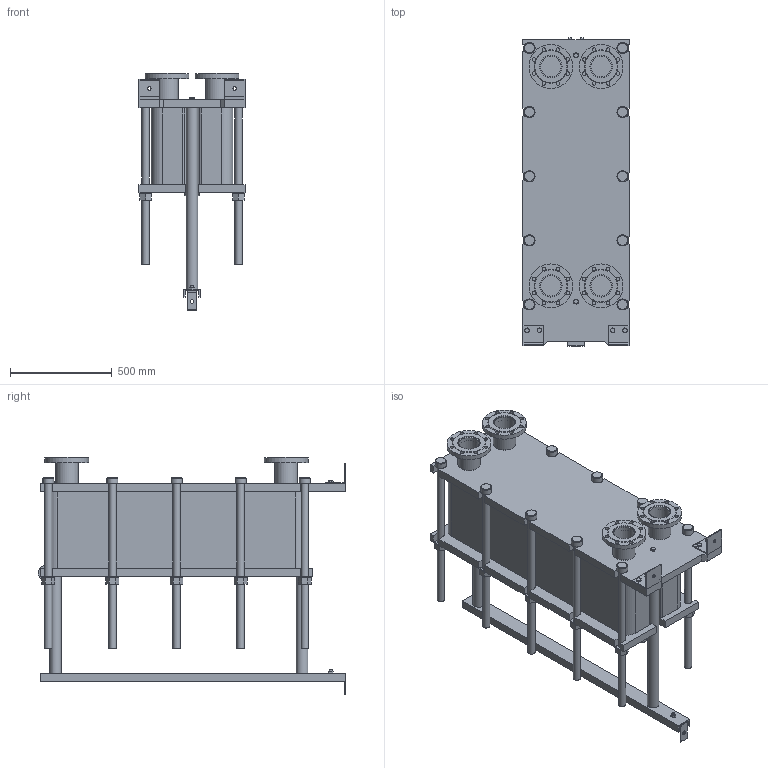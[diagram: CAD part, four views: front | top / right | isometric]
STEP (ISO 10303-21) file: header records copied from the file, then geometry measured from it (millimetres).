
FILE_DESCRIPTION(/* description */ (''),/* implementation_level */ '2;1');
FILE_NAME(/* name */ 'C:\Users\zhuro\Desktop\ENCO\TO\ЭН-04\ЭН-0,5-04-109-1.stp',/* time_stamp */ '2022-06-06T10:54:57+03:00',/* author */ ('zhuro'),/* organization */ (''),/* preprocessor_version */ 'ST-DEVELOPER v18.1',/* originating_system */ 'Autodesk Inventor 2022',/* authorisation */ '');
FILE_SCHEMA (('AUTOMOTIVE_DESIGN { 1 0 10303 214 3 1 1 }'));
Length unit declared in the file: millimetre
Products named in the file (1): ЭН-0,5-04-109-1
Bounding box: 520 x 1510 x 1164.5 mm (x, y, z)
Volume: 259623602.6 mm3; surface area: 8553172.8 mm2
Topology: 45 solids, 45 shells, 668 faces, 1611 edges, 1048 vertices
Faces by surface type: plane 457, cylinder 166, cone 39, torus 6
Full cylindrical faces by diameter (mm): 8 x4, 10 x2, 16 x8, 18 x35, 36 x25, 40 x2, 42 x1, 45 x4, 54 x10, 57 x2, 60 x10, 68 x2, 100 x4, 110 x8, 215 x4
Entity records: 23607 total; most frequent: CARTESIAN_POINT 7348, DIRECTION 3371, ORIENTED_EDGE 3142, EDGE_CURVE 1571, AXIS2_PLACEMENT_3D 1199, VERTEX_POINT 1044, LINE 973, VECTOR 973
